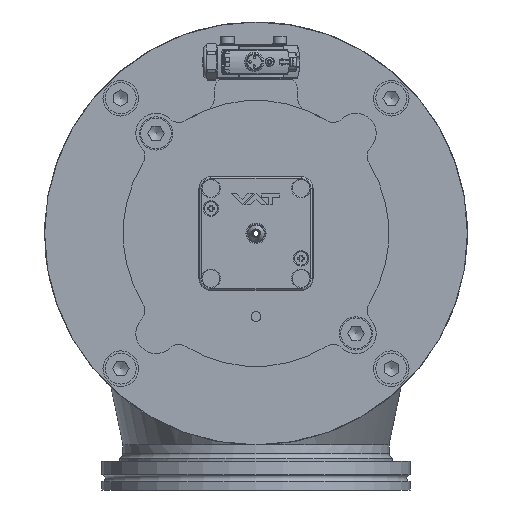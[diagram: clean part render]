
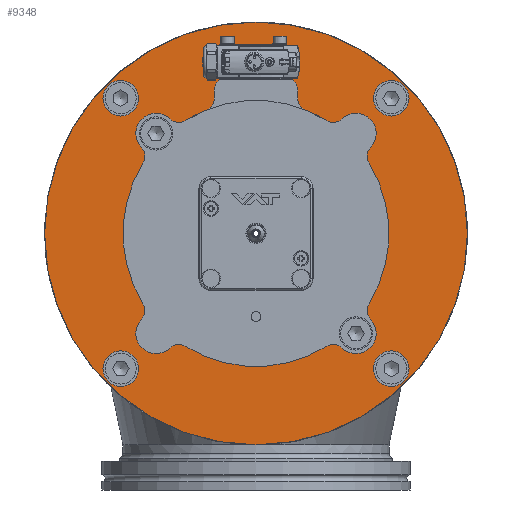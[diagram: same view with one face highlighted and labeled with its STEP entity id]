
A CAD part, left-side view. The second image highlights one B-rep face of the part: STEP entity #9348.
In plain terms, the highlighted planar face has unit normal (-1, 0, 0).
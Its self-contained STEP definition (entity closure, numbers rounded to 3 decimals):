
#9348=ADVANCED_FACE('BCT_REF_156008',(#12542,#12543,#12544,#12545,#12546,
#12547,#12548,#12549,#12550,#12551),#10624,.F.);
#10624=PLANE('',#29962);
#11440=CIRCLE('',#29937,89.);
#11450=CIRCLE('',#29953,3.4);
#11451=CIRCLE('',#29954,3.4);
#11452=CIRCLE('',#29955,3.4);
#11453=CIRCLE('',#29956,3.4);
#11454=CIRCLE('',#29957,7.5);
#11455=CIRCLE('',#29958,7.5);
#11456=CIRCLE('',#29959,7.5);
#11457=CIRCLE('',#29960,7.5);
#11458=CIRCLE('',#29961,55.145);
#12542=FACE_BOUND('',#13354,.T.);
#12543=FACE_BOUND('',#13355,.T.);
#12544=FACE_BOUND('',#13356,.T.);
#12545=FACE_BOUND('',#13357,.T.);
#12546=FACE_BOUND('',#13358,.T.);
#12547=FACE_BOUND('',#13359,.T.);
#12548=FACE_BOUND('',#13360,.T.);
#12549=FACE_BOUND('',#13361,.T.);
#12550=FACE_BOUND('',#13362,.T.);
#12551=FACE_BOUND('',#13363,.T.);
#13354=EDGE_LOOP('',(#15420));
#13355=EDGE_LOOP('',(#15421));
#13356=EDGE_LOOP('',(#15422));
#13357=EDGE_LOOP('',(#15423));
#13358=EDGE_LOOP('',(#15424));
#13359=EDGE_LOOP('',(#15425));
#13360=EDGE_LOOP('',(#15426));
#13361=EDGE_LOOP('',(#15427));
#13362=EDGE_LOOP('',(#15428));
#13363=EDGE_LOOP('',(#15429));
#15420=ORIENTED_EDGE('',*,*,#23507,.T.);
#15421=ORIENTED_EDGE('',*,*,#23508,.T.);
#15422=ORIENTED_EDGE('',*,*,#23509,.T.);
#15423=ORIENTED_EDGE('',*,*,#23510,.T.);
#15424=ORIENTED_EDGE('',*,*,#23511,.T.);
#15425=ORIENTED_EDGE('',*,*,#23512,.T.);
#15426=ORIENTED_EDGE('',*,*,#23513,.T.);
#15427=ORIENTED_EDGE('',*,*,#23514,.T.);
#15428=ORIENTED_EDGE('',*,*,#23515,.T.);
#15429=ORIENTED_EDGE('',*,*,#23487,.T.);
#21306=VERTEX_POINT('',#39385);
#21321=VERTEX_POINT('',#39438);
#21322=VERTEX_POINT('',#39440);
#21323=VERTEX_POINT('',#39442);
#21324=VERTEX_POINT('',#39444);
#21325=VERTEX_POINT('',#39446);
#21326=VERTEX_POINT('',#39448);
#21327=VERTEX_POINT('',#39450);
#21328=VERTEX_POINT('',#39452);
#21329=VERTEX_POINT('',#39454);
#23487=EDGE_CURVE('',#21306,#21306,#11440,.T.);
#23507=EDGE_CURVE('',#21321,#21321,#11450,.T.);
#23508=EDGE_CURVE('',#21322,#21322,#11451,.T.);
#23509=EDGE_CURVE('',#21323,#21323,#11452,.T.);
#23510=EDGE_CURVE('',#21324,#21324,#11453,.T.);
#23511=EDGE_CURVE('BCT_REF_155885',#21325,#21325,#11454,.T.);
#23512=EDGE_CURVE('',#21326,#21326,#11455,.T.);
#23513=EDGE_CURVE('',#21327,#21327,#11456,.T.);
#23514=EDGE_CURVE('',#21328,#21328,#11457,.T.);
#23515=EDGE_CURVE('BCT_REF_156011',#21329,#21329,#11458,.T.);
#29937=AXIS2_PLACEMENT_3D('',#39384,#32799,#32800);
#29953=AXIS2_PLACEMENT_3D('',#39437,#32839,#32840);
#29954=AXIS2_PLACEMENT_3D('',#39439,#32841,#32842);
#29955=AXIS2_PLACEMENT_3D('',#39441,#32843,#32844);
#29956=AXIS2_PLACEMENT_3D('',#39443,#32845,#32846);
#29957=AXIS2_PLACEMENT_3D('',#39445,#32847,#32848);
#29958=AXIS2_PLACEMENT_3D('',#39447,#32849,#32850);
#29959=AXIS2_PLACEMENT_3D('',#39449,#32851,#32852);
#29960=AXIS2_PLACEMENT_3D('',#39451,#32853,#32854);
#29961=AXIS2_PLACEMENT_3D('',#39453,#32855,#32856);
#29962=AXIS2_PLACEMENT_3D('',#39455,#32857,#32858);
#32799=DIRECTION('',(-1.,0.,0.));
#32800=DIRECTION('',(0.,0.,1.));
#32839=DIRECTION('',(1.,0.,0.));
#32840=DIRECTION('',(0.,-1.,0.));
#32841=DIRECTION('',(1.,0.,0.));
#32842=DIRECTION('',(0.,0.,1.));
#32843=DIRECTION('',(1.,0.,0.));
#32844=DIRECTION('',(0.,1.,0.));
#32845=DIRECTION('',(1.,0.,0.));
#32846=DIRECTION('',(0.,0.,-1.));
#32847=DIRECTION('',(1.,0.,0.));
#32848=DIRECTION('',(0.,-1.,0.));
#32849=DIRECTION('',(1.,0.,0.));
#32850=DIRECTION('',(0.,0.,1.));
#32851=DIRECTION('',(1.,0.,0.));
#32852=DIRECTION('',(0.,1.,0.));
#32853=DIRECTION('',(1.,0.,0.));
#32854=DIRECTION('',(0.,0.,-1.));
#32855=DIRECTION('',(1.,0.,0.));
#32856=DIRECTION('',(0.,0.,-1.));
#32857=DIRECTION('',(1.,0.,0.));
#32858=DIRECTION('',(0.,0.,-1.));
#39384=CARTESIAN_POINT('',(0.,0.,0.));
#39385=CARTESIAN_POINT('',(0.,0.,89.));
#39437=CARTESIAN_POINT('',(0.,-42.073,-42.073));
#39438=CARTESIAN_POINT('',(0.,-45.473,-42.073));
#39439=CARTESIAN_POINT('',(0.,-42.073,42.073));
#39440=CARTESIAN_POINT('',(0.,-42.073,45.473));
#39441=CARTESIAN_POINT('',(0.,42.073,42.073));
#39442=CARTESIAN_POINT('',(0.,45.473,42.073));
#39443=CARTESIAN_POINT('',(0.,42.073,-42.073));
#39444=CARTESIAN_POINT('',(0.,42.073,-45.473));
#39445=CARTESIAN_POINT('',(0.,56.922,-56.922));
#39446=CARTESIAN_POINT('',(0.,49.422,-56.922));
#39447=CARTESIAN_POINT('',(0.,-56.922,-56.922));
#39448=CARTESIAN_POINT('',(0.,-56.922,-49.422));
#39449=CARTESIAN_POINT('',(0.,-56.922,56.922));
#39450=CARTESIAN_POINT('',(0.,-49.422,56.922));
#39451=CARTESIAN_POINT('',(0.,56.922,56.922));
#39452=CARTESIAN_POINT('',(0.,56.922,49.422));
#39453=CARTESIAN_POINT('',(0.,0.,0.));
#39454=CARTESIAN_POINT('',(0.,0.,-55.145));
#39455=CARTESIAN_POINT('',(0.,89.,0.));
